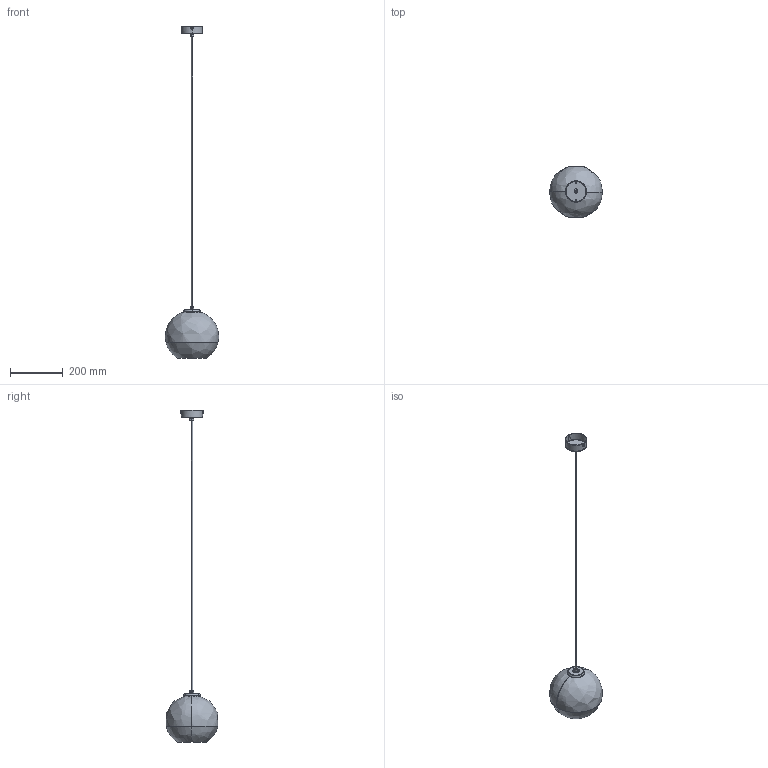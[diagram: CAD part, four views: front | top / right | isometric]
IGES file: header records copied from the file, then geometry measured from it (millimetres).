
Start section: SolidWorks IGES file using NURBS representation for surfaces
Global section: file name: Z:\Modele 3D_WWW\_KOLEKCJE_WWW\GLOBE-PLUS\GLOBE-PLUS-S-7605\GLOBE-PLUS-S-7605.IGS; native system: SolidWorks 2021; preprocessor: SolidWorks 2021; author: gabriela.tworek; date: 211014.124705; units: millimetre
Bounding box: 202.99 x 197.92 x 1264.03 mm (x, y, z)
Surface area: 338634.5 mm2 (no closed solid volume)
Topology: 0 solids, 0 shells, 474 faces, 5938 edges, 5917 vertices
Faces by surface type: bspline 474
